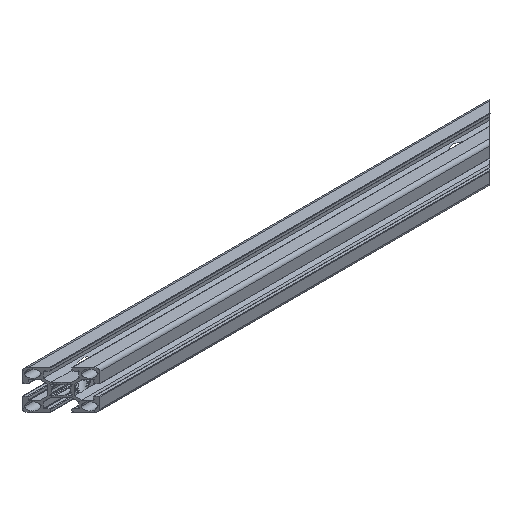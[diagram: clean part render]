
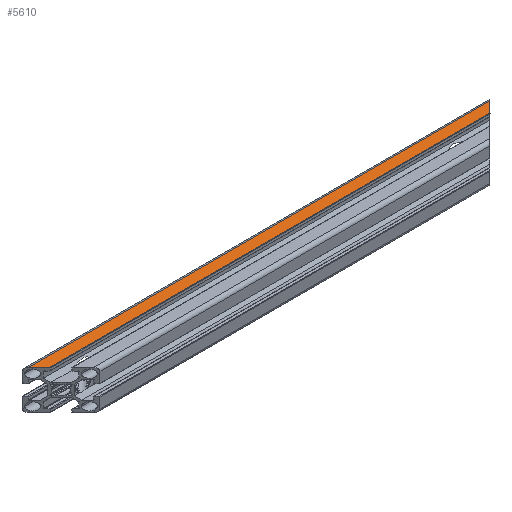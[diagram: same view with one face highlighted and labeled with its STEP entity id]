
A CAD part, isometric view. The second image highlights one B-rep face of the part: STEP entity #5610.
In plain terms, the highlighted planar face has unit normal (0, 0, 1).
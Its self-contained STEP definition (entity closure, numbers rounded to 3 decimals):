
#4 = EDGE_CURVE ( 'NONE', #399, #923, #6795, .T. ) ;
#246 = EDGE_CURVE ( 'NONE', #6728, #923, #5215, .T. ) ;
#399 = VERTEX_POINT ( 'NONE', #2243 ) ;
#874 = DIRECTION ( 'NONE',  ( -1., 0., 0. ) ) ;
#918 = ORIENTED_EDGE ( 'NONE', *, *, #246, .F. ) ;
#923 = VERTEX_POINT ( 'NONE', #7889 ) ;
#934 = DIRECTION ( 'NONE',  ( 0.707, 0.707, 0. ) ) ;
#1128 = LINE ( 'NONE', #4027, #3836 ) ;
#1232 = EDGE_LOOP ( 'NONE', ( #4546, #918, #2639, #8952 ) ) ;
#1416 = CARTESIAN_POINT ( 'NONE',  ( -199.4, 4.4, 15. ) ) ;
#2086 = FACE_OUTER_BOUND ( 'NONE', #1232, .T. ) ;
#2243 = CARTESIAN_POINT ( 'NONE',  ( 139.4, 4.4, 15. ) ) ;
#2419 = CARTESIAN_POINT ( 'NONE',  ( 147.5, 12.5, 15. ) ) ;
#2639 = ORIENTED_EDGE ( 'NONE', *, *, #2764, .F. ) ;
#2764 = EDGE_CURVE ( 'NONE', #4954, #6728, #5699, .T. ) ;
#3056 = CARTESIAN_POINT ( 'NONE',  ( -210., 12.5, 15. ) ) ;
#3184 = VECTOR ( 'NONE', #5787, 1000. ) ;
#3533 = PLANE ( 'NONE',  #5188 ) ;
#3578 = CARTESIAN_POINT ( 'NONE',  ( -210., 4.4, 15. ) ) ;
#3836 = VECTOR ( 'NONE', #6893, 1000. ) ;
#4027 = CARTESIAN_POINT ( 'NONE',  ( -210., 4.4, 15. ) ) ;
#4232 = DIRECTION ( 'NONE',  ( -0.707, 0.707, 0. ) ) ;
#4546 = ORIENTED_EDGE ( 'NONE', *, *, #4, .T. ) ;
#4954 = VERTEX_POINT ( 'NONE', #1416 ) ;
#5000 = VECTOR ( 'NONE', #4232, 1000. ) ;
#5188 = AXIS2_PLACEMENT_3D ( 'NONE', #3578, #6455, #874 ) ;
#5215 = LINE ( 'NONE', #3056, #3184 ) ;
#5610 = ADVANCED_FACE ( 'NONE', ( #2086 ), #3533, .F. ) ;
#5699 = LINE ( 'NONE', #7893, #5000 ) ;
#5787 = DIRECTION ( 'NONE',  ( 1., 0., 0. ) ) ;
#6455 = DIRECTION ( 'NONE',  ( 0., 0., -1. ) ) ;
#6477 = EDGE_CURVE ( 'NONE', #4954, #399, #1128, .T. ) ;
#6728 = VERTEX_POINT ( 'NONE', #7302 ) ;
#6795 = LINE ( 'NONE', #2419, #7529 ) ;
#6893 = DIRECTION ( 'NONE',  ( 1., 0., 0. ) ) ;
#7302 = CARTESIAN_POINT ( 'NONE',  ( -207.5, 12.5, 15. ) ) ;
#7529 = VECTOR ( 'NONE', #934, 1000. ) ;
#7889 = CARTESIAN_POINT ( 'NONE',  ( 147.5, 12.5, 15. ) ) ;
#7893 = CARTESIAN_POINT ( 'NONE',  ( -210., 15., 15. ) ) ;
#8952 = ORIENTED_EDGE ( 'NONE', *, *, #6477, .T. ) ;
